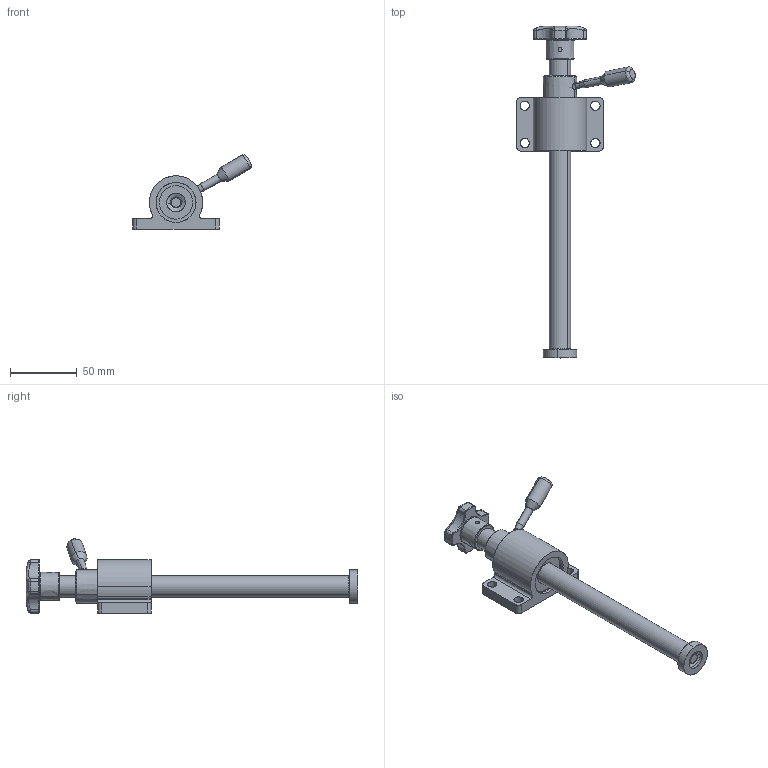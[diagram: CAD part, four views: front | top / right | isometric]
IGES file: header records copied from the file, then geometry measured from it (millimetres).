
Start section: SolidWorks IGES file using analytic representation for surfaces
Global section: file name: C:\Projetos\Grampos\Fusos\KFR-16\KFR-16.IGS; native system: SolidWorks 2014; preprocessor: SolidWorks 2014; author: Ricardo; date: 150720.110806; units: millimetre
Bounding box: 88.95 x 248.85 x 55.67 mm (x, y, z)
Surface area: 48415.5 mm2 (no closed solid volume)
Topology: 0 solids, 0 shells, 465 faces, 6760 edges, 6760 vertices
Faces by surface type: bspline 244, revolution 221
